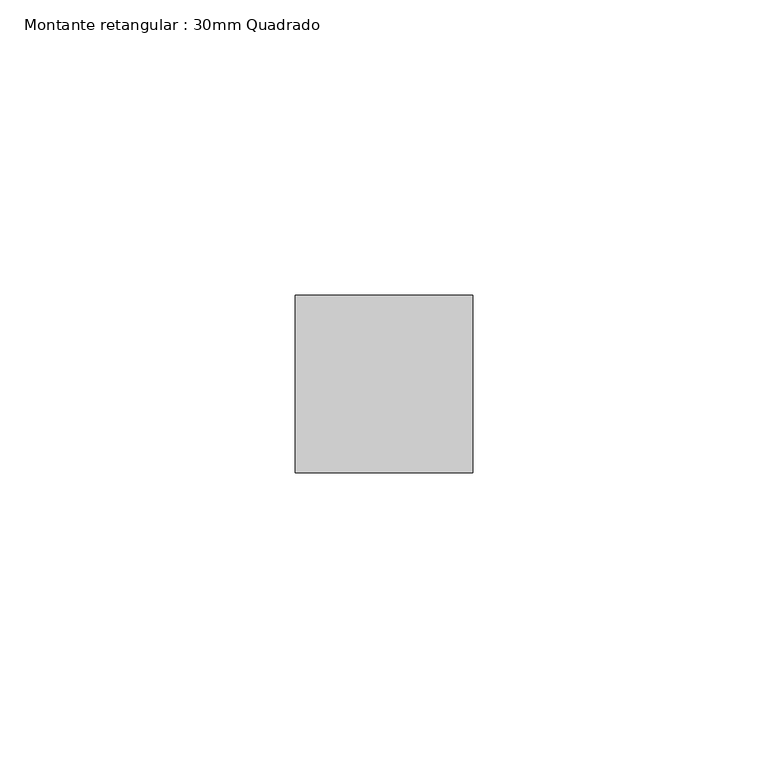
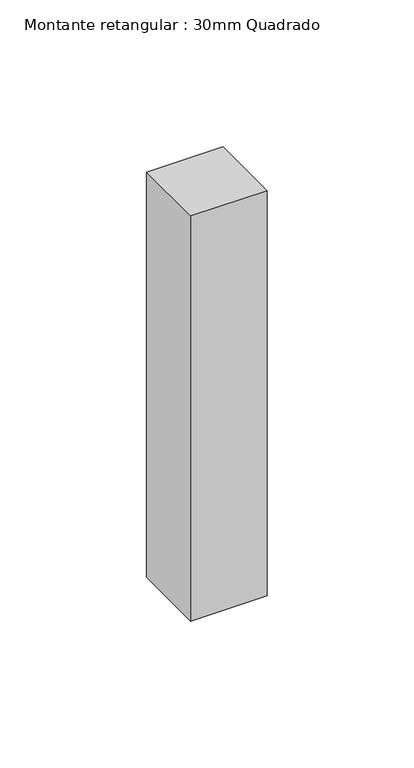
"""IFC4 building model written with IfcOpenShell, lengths in millimetres: member geometry, Montante retangular : 30mm Quadrado."""

import ifcopenshell
import ifcopenshell.guid

model = None  # the IFC model being written
_history = None  # IfcOwnerHistory: only IFC2X3 demands one
_inside = {}  # id of a spatial element -> (the spatial element, [elements in it])
_under = {}  # id of a project, library or spatial element -> (it, [spatial elements below it])
_declared = {}  # id of a project -> (the project, [libraries it declares])
_typed = {}  # id of a type object -> (the type object, [elements of that type])
_made_of = {}  # id of a material, layer set ... -> (it, [elements and type objects made of it])


def new_model(schema):
    """Start an empty IFC model of exactly this schema.

    Asked for "IFC4X3", IfcOpenShell would pick the latest addendum, in which some entities
    have other attributes; the version numbers below select the first issue.
    IFC2X3 requires an IfcOwnerHistory on every rooted entity: one is made here for all.
    """
    global model, _history
    if schema == "IFC4X3":
        model = ifcopenshell.file(schema_version=(4, 3, 0, 0))
    else:
        model = ifcopenshell.file(schema=schema)
    _inside.clear()
    _under.clear()
    _declared.clear()
    _typed.clear()
    _made_of.clear()
    _history = None
    if model.schema == "IFC2X3":
        org = make("IfcOrganization", Name="unknown")
        user = make(
            "IfcPersonAndOrganization",
            ThePerson=make("IfcPerson", FamilyName="unknown"),
            TheOrganization=org,
        )
        app = make(
            "IfcApplication",
            ApplicationDeveloper=org,
            Version="unknown",
            ApplicationFullName="unknown",
            ApplicationIdentifier="unknown",
        )
        _history = make(
            "IfcOwnerHistory",
            OwningUser=user,
            OwningApplication=app,
            ChangeAction="ADDED",
            CreationDate=0,
        )
    return model


def make(cls, **values):
    """One entity of the class cls with the attributes given. An attribute that is None is left unset."""
    return model.create_entity(
        cls, **{name: value for name, value in values.items() if value is not None}
    )


def rooted(cls, **values):
    """An entity with a GlobalId (a new one), such as an element, a storey or a relation."""
    return make(cls, GlobalId=ifcopenshell.guid.new(), OwnerHistory=_history, **values)


def si_unit(unit_type, name, prefix=None):
    """IfcSIUnit, for example si_unit("LENGTHUNIT", "METRE", prefix="MILLI")."""
    return make("IfcSIUnit", UnitType=unit_type, Prefix=prefix, Name=name)


def assignment(units):
    """IfcUnitAssignment: the units of a project."""
    return None if units is None else make("IfcUnitAssignment", Units=units)


def point(xyz):
    """IfcCartesianPoint."""
    return None if xyz is None else make("IfcCartesianPoint", Coordinates=xyz)


def direction(xyz):
    """IfcDirection."""
    return None if xyz is None else make("IfcDirection", DirectionRatios=xyz)


def frame(location, z_axis=None, x_axis=None):
    """IfcAxis2Placement3D, a coordinate frame: its origin and axes. An axis left out is left unset."""
    return make(
        "IfcAxis2Placement3D",
        Location=point(location),
        Axis=direction(z_axis),
        RefDirection=direction(x_axis),
    )


def origin():
    """The frame at (0, 0, 0) with its axes left unset."""
    return frame((0.0, 0.0, 0.0))


def place(relative_to, where):
    """IfcLocalPlacement: puts the frame where relative to a parent placement (None: the world)."""
    return make(
        "IfcLocalPlacement", PlacementRelTo=relative_to, RelativePlacement=where
    )


def context(
    kind, dimensions, precision=None, world=None, true_north=None, identifier=None
):
    """IfcGeometricRepresentationContext, for example the 3D "Model" context."""
    return make(
        "IfcGeometricRepresentationContext",
        ContextIdentifier=identifier,
        ContextType=kind,
        CoordinateSpaceDimension=dimensions,
        Precision=precision,
        WorldCoordinateSystem=world,
        TrueNorth=true_north,
    )


def project(units=None, contexts=None):
    """IfcProject with its units and contexts."""
    return rooted(
        "IfcProject",
        Name="project",
        RepresentationContexts=contexts,
        UnitsInContext=assignment(units),
    )


def spatial(cls, under=None, at=None, **own):
    """A site, building, storey or space (cls), placed at a placement, below another one or the project."""
    s = rooted(cls, ObjectPlacement=at, **own)
    if under is not None:
        _under.setdefault(under.id(), (under, []))[1].append(s)
    return s


def polyline(points):
    """IfcPolyline through the points."""
    return make("IfcPolyline", Points=[point(p) for p in points])


def outline(outer, holes=None, kind="AREA"):
    """IfcArbitraryClosedProfileDef: a profile drawn as a closed curve; with holes, ...WithVoids."""
    if holes is None:
        return make("IfcArbitraryClosedProfileDef", ProfileType=kind, OuterCurve=outer)
    return make(
        "IfcArbitraryProfileDefWithVoids",
        ProfileType=kind,
        OuterCurve=outer,
        InnerCurves=holes,
    )


def extrude(swept, where, along, depth):
    """IfcExtrudedAreaSolid: the profile swept, set in the frame where, extruded along a direction by depth."""
    return make(
        "IfcExtrudedAreaSolid",
        SweptArea=swept,
        Position=where,
        ExtrudedDirection=direction(along),
        Depth=depth,
    )


def shape(context_of_items, identifier, shape_type, items):
    """IfcShapeRepresentation: the items that make up one representation, for example the "Body"."""
    return make(
        "IfcShapeRepresentation",
        ContextOfItems=context_of_items,
        RepresentationIdentifier=identifier,
        RepresentationType=shape_type,
        Items=items,
    )


def source(mapping_origin, context_of_items, identifier, shape_type, items):
    """IfcRepresentationMap: a shape defined once, which mapped items show again and again."""
    return make(
        "IfcRepresentationMap",
        MappingOrigin=mapping_origin,
        MappedRepresentation=shape(context_of_items, identifier, shape_type, items),
    )


def transform(
    local_origin,
    x_axis=None,
    y_axis=None,
    z_axis=None,
    scale=None,
    scale2=None,
    scale3=None,
    uniform=True,
):
    """IfcCartesianTransformationOperator3D, or its non-uniform kind. x_axis, y_axis, z_axis: its Axis1, 2, 3."""
    if uniform:
        return make(
            "IfcCartesianTransformationOperator3D",
            Axis1=direction(x_axis),
            Axis2=direction(y_axis),
            LocalOrigin=point(local_origin),
            Scale=scale,
            Axis3=direction(z_axis),
        )
    return make(
        "IfcCartesianTransformationOperator3DnonUniform",
        Axis1=direction(x_axis),
        Axis2=direction(y_axis),
        LocalOrigin=point(local_origin),
        Scale=scale,
        Axis3=direction(z_axis),
        Scale2=scale2,
        Scale3=scale3,
    )


def mapped(mapping_source, mapping_target):
    """IfcMappedItem: shows the shape of a source again, moved by a transform."""
    return make(
        "IfcMappedItem", MappingSource=mapping_source, MappingTarget=mapping_target
    )


def made_of(thing, what):
    """Note that an element or type object is made of a material, layer set ...; save() writes the relation."""
    if what is not None:
        _made_of.setdefault(what.id(), (what, []))[1].append(thing)
    return thing


def element(
    cls,
    number,
    at=None,
    inside=None,
    cuts=None,
    type_object=None,
    material=None,
    context=None,
    identifier="Body",
    shape_type=None,
    held_by="IfcProductDefinitionShape",
    body=None,
    shapes=None,
    **own,
):
    """One element of the class cls, such as IfcWall. Its Tag is "e" and its number.

    at: its placement. inside: the storey or other place that contains it. cuts: it is an
    opening in that element (IfcRelVoidsElement). A single representation is given by context,
    identifier, shape_type and body (its items); several are given by shapes. held_by: the class
    of the entity that holds the representations. save() writes the other relations.
    """
    e = rooted(cls, Tag="e%d" % number, ObjectPlacement=at, **own)
    if body is not None:
        shapes = [shape(context, identifier, shape_type, body)]
    if shapes is not None:
        e.Representation = make(held_by, Representations=shapes)
    if inside is not None:
        _inside.setdefault(inside.id(), (inside, []))[1].append(e)
    if cuts is not None:
        rooted(
            "IfcRelVoidsElement", RelatingBuildingElement=cuts, RelatedOpeningElement=e
        )
    if type_object is not None:
        _typed.setdefault(type_object.id(), (type_object, []))[1].append(e)
    return made_of(e, material)


def aggregate(whole, parts):
    """IfcRelAggregates: a whole, such as a stair, and the parts it consists of."""
    return rooted("IfcRelAggregates", RelatingObject=whole, RelatedObjects=parts)


def save(model, path):
    """Write the relations noted so far, then the file.

    IfcRelAggregates (storeys below a building ...), IfcRelContainedInSpatialStructure (elements
    in a storey), IfcRelDefinesByType, IfcRelAssociatesMaterial and IfcRelDeclares: one each for
    every whole, place, type object, material and project.
    """
    for whole, parts in _under.values():
        aggregate(whole, parts)
    for where, things in _inside.values():
        rooted(
            "IfcRelContainedInSpatialStructure",
            RelatedElements=things,
            RelatingStructure=where,
        )
    for kind, things in _typed.values():
        rooted("IfcRelDefinesByType", RelatedObjects=things, RelatingType=kind)
    for what, things in _made_of.values():
        rooted("IfcRelAssociatesMaterial", RelatedObjects=things, RelatingMaterial=what)
    for by, libraries in _declared.values():
        rooted("IfcRelDeclares", RelatingContext=by, RelatedDefinitions=libraries)
    model.write(path)


def montante_retangular_30mm_quadrado_529ace61(model_context):
    return source(origin(), model_context, "Body", "SweptSolid", [
        extrude(outline(polyline([(0.0, 15.0), (0.0, -15.0), (-30.0, -15.0), (-30.0, 15.0), (0.0, 15.0)])), frame((0.0, 0.0, -168.3905748), z_axis=(0.0, 0.0, 1.0), x_axis=(1.0, 0.0, 0.0)), (0.0, 0.0, 1.0), 168.3905748),
    ])


if __name__ == "__main__":
    model = new_model("IFC4")
    model_context = context("Model", 3, world=origin())
    ifc_project = project(units=[si_unit("LENGTHUNIT", "METRE", prefix="MILLI")], contexts=[model_context])
    site = spatial("IfcSite", under=ifc_project)
    building = spatial("IfcBuilding", under=site)
    placement = place(None, origin())
    montante_retangular_30mm_quadrado_shape = montante_retangular_30mm_quadrado_529ace61(model_context)
    element("IfcMember", 1, ObjectType="Montante retangular : 30mm Quadrado", at=placement, inside=building, context=model_context, shape_type="MappedRepresentation", body=[
        mapped(montante_retangular_30mm_quadrado_shape, transform((0.0, 0.0, 0.0), x_axis=(1.0, 0.0, 0.0), y_axis=(0.0, 1.0, 0.0), z_axis=(0.0, 0.0, 1.0))),
    ])
    save(model, "model.ifc")
